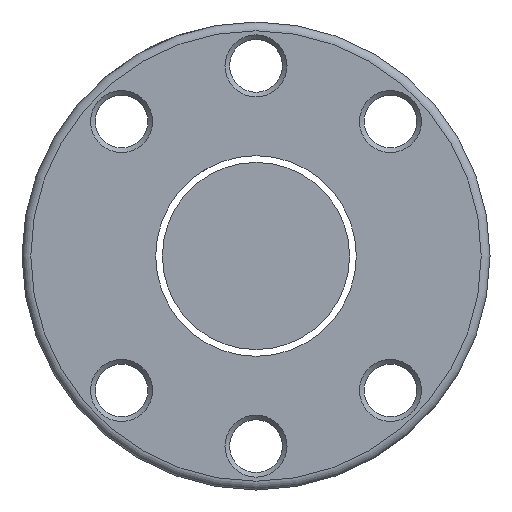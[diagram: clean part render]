
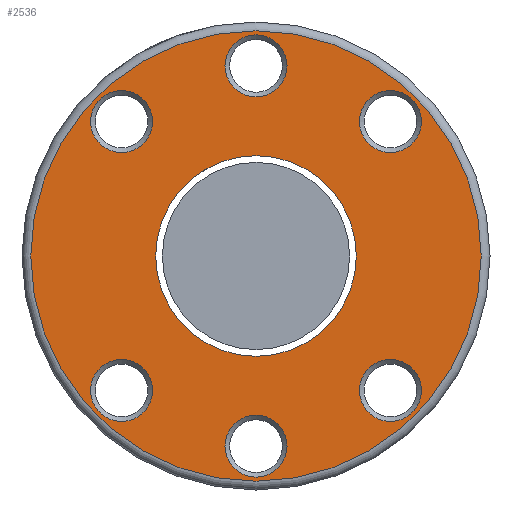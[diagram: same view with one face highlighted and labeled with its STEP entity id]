
A CAD part, left-side view. The second image highlights one B-rep face of the part: STEP entity #2536.
In plain terms, the highlighted planar face has unit normal (-1, 0, 0).
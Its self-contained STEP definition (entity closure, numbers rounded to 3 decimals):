
#10 = CARTESIAN_POINT ( 'NONE',  ( -57., 0., 0. ) ) ;
#48 = ORIENTED_EDGE ( 'NONE', *, *, #836, .T. ) ;
#67 = EDGE_CURVE ( 'NONE', #1059, #1059, #2419, .T. ) ;
#74 = CARTESIAN_POINT ( 'NONE',  ( -57., 22.981, 28.281 ) ) ;
#90 = PLANE ( 'NONE',  #589 ) ;
#108 = CARTESIAN_POINT ( 'NONE',  ( -57., 40., 0. ) ) ;
#122 = FACE_BOUND ( 'NONE', #1304, .T. ) ;
#131 = DIRECTION ( 'NONE',  ( 0., 0., 1. ) ) ;
#160 = DIRECTION ( 'NONE',  ( 0., 0., 1. ) ) ;
#193 = DIRECTION ( 'NONE',  ( 1., 0., 0. ) ) ;
#234 = CARTESIAN_POINT ( 'NONE',  ( -57., 22.981, -22.981 ) ) ;
#276 = VERTEX_POINT ( 'NONE', #2398 ) ;
#304 = DIRECTION ( 'NONE',  ( 1., 0., 0. ) ) ;
#459 = DIRECTION ( 'NONE',  ( 1., 0., 0. ) ) ;
#509 = ORIENTED_EDGE ( 'NONE', *, *, #1244, .T. ) ;
#515 = EDGE_LOOP ( 'NONE', ( #1087 ) ) ;
#545 = CARTESIAN_POINT ( 'NONE',  ( -57., 0., 38.5 ) ) ;
#546 = CIRCLE ( 'NONE', #892, 17.15 ) ;
#560 = EDGE_CURVE ( 'NONE', #1679, #1679, #1688, .T. ) ;
#589 = AXIS2_PLACEMENT_3D ( 'NONE', #108, #929, #1776 ) ;
#633 = VERTEX_POINT ( 'NONE', #1492 ) ;
#663 = CIRCLE ( 'NONE', #2550, 5.3 ) ;
#667 = AXIS2_PLACEMENT_3D ( 'NONE', #1942, #304, #1787 ) ;
#669 = CARTESIAN_POINT ( 'NONE',  ( -57., -22.981, -22.981 ) ) ;
#835 = AXIS2_PLACEMENT_3D ( 'NONE', #1292, #193, #1477 ) ;
#836 = EDGE_CURVE ( 'NONE', #633, #633, #663, .T. ) ;
#847 = CIRCLE ( 'NONE', #2602, 5.3 ) ;
#851 = DIRECTION ( 'NONE',  ( 0., 0., 1. ) ) ;
#891 = ORIENTED_EDGE ( 'NONE', *, *, #1629, .T. ) ;
#892 = AXIS2_PLACEMENT_3D ( 'NONE', #10, #2532, #1093 ) ;
#911 = ORIENTED_EDGE ( 'NONE', *, *, #2332, .T. ) ;
#918 = EDGE_LOOP ( 'NONE', ( #1941 ) ) ;
#929 = DIRECTION ( 'NONE',  ( -1., 0., 0. ) ) ;
#942 = EDGE_LOOP ( 'NONE', ( #48 ) ) ;
#1059 = VERTEX_POINT ( 'NONE', #1891 ) ;
#1087 = ORIENTED_EDGE ( 'NONE', *, *, #67, .T. ) ;
#1093 = DIRECTION ( 'NONE',  ( 0., 0., -1. ) ) ;
#1136 = FACE_BOUND ( 'NONE', #918, .T. ) ;
#1149 = DIRECTION ( 'NONE',  ( 0., 0., 1. ) ) ;
#1155 = CIRCLE ( 'NONE', #2552, 38.5 ) ;
#1206 = CIRCLE ( 'NONE', #667, 5.3 ) ;
#1244 = EDGE_CURVE ( 'NONE', #276, #276, #2256, .T. ) ;
#1292 = CARTESIAN_POINT ( 'NONE',  ( -57., 0., 32.5 ) ) ;
#1304 = EDGE_LOOP ( 'NONE', ( #509 ) ) ;
#1327 = EDGE_LOOP ( 'NONE', ( #891 ) ) ;
#1346 = VERTEX_POINT ( 'NONE', #1759 ) ;
#1393 = FACE_OUTER_BOUND ( 'NONE', #1327, .T. ) ;
#1415 = DIRECTION ( 'NONE',  ( -1., 0., 0. ) ) ;
#1424 = AXIS2_PLACEMENT_3D ( 'NONE', #234, #459, #1681 ) ;
#1430 = EDGE_CURVE ( 'NONE', #2200, #2200, #1206, .T. ) ;
#1477 = DIRECTION ( 'NONE',  ( 0., 0., 1. ) ) ;
#1492 = CARTESIAN_POINT ( 'NONE',  ( -57., -22.981, 28.281 ) ) ;
#1629 = EDGE_CURVE ( 'NONE', #2570, #2570, #1155, .T. ) ;
#1679 = VERTEX_POINT ( 'NONE', #2556 ) ;
#1681 = DIRECTION ( 'NONE',  ( 0., 0., 1. ) ) ;
#1688 = CIRCLE ( 'NONE', #2597, 5.3 ) ;
#1759 = CARTESIAN_POINT ( 'NONE',  ( -57., 0., -27.2 ) ) ;
#1776 = DIRECTION ( 'NONE',  ( 0., 0., 1. ) ) ;
#1787 = DIRECTION ( 'NONE',  ( 0., 0., 1. ) ) ;
#1805 = FACE_BOUND ( 'NONE', #2396, .T. ) ;
#1887 = DIRECTION ( 'NONE',  ( 1., 0., 0. ) ) ;
#1891 = CARTESIAN_POINT ( 'NONE',  ( -57., 0., 37.8 ) ) ;
#1941 = ORIENTED_EDGE ( 'NONE', *, *, #1430, .T. ) ;
#1942 = CARTESIAN_POINT ( 'NONE',  ( -57., 22.981, 22.981 ) ) ;
#1967 = ORIENTED_EDGE ( 'NONE', *, *, #560, .T. ) ;
#1989 = EDGE_LOOP ( 'NONE', ( #911 ) ) ;
#1994 = FACE_BOUND ( 'NONE', #2599, .T. ) ;
#2051 = DIRECTION ( 'NONE',  ( 1., 0., 0. ) ) ;
#2056 = EDGE_CURVE ( 'NONE', #2213, #2213, #546, .T. ) ;
#2200 = VERTEX_POINT ( 'NONE', #74 ) ;
#2203 = FACE_BOUND ( 'NONE', #515, .T. ) ;
#2213 = VERTEX_POINT ( 'NONE', #2383 ) ;
#2246 = CARTESIAN_POINT ( 'NONE',  ( -57., 0., -32.5 ) ) ;
#2256 = CIRCLE ( 'NONE', #1424, 5.3 ) ;
#2264 = CARTESIAN_POINT ( 'NONE',  ( -57., 0., 0. ) ) ;
#2319 = ORIENTED_EDGE ( 'NONE', *, *, #2056, .T. ) ;
#2329 = DIRECTION ( 'NONE',  ( 1., 0., 0. ) ) ;
#2332 = EDGE_CURVE ( 'NONE', #1346, #1346, #847, .T. ) ;
#2371 = FACE_BOUND ( 'NONE', #1989, .T. ) ;
#2383 = CARTESIAN_POINT ( 'NONE',  ( -57., 0., -17.15 ) ) ;
#2396 = EDGE_LOOP ( 'NONE', ( #2319 ) ) ;
#2398 = CARTESIAN_POINT ( 'NONE',  ( -57., 22.981, -17.681 ) ) ;
#2419 = CIRCLE ( 'NONE', #835, 5.3 ) ;
#2430 = FACE_BOUND ( 'NONE', #942, .T. ) ;
#2532 = DIRECTION ( 'NONE',  ( 1., 0., 0. ) ) ;
#2536 = ADVANCED_FACE ( 'NONE', ( #1393, #1136, #122, #2371, #1994, #2430, #2203, #1805 ), #90, .T. ) ;
#2550 = AXIS2_PLACEMENT_3D ( 'NONE', #2603, #2329, #1149 ) ;
#2552 = AXIS2_PLACEMENT_3D ( 'NONE', #2264, #1415, #131 ) ;
#2556 = CARTESIAN_POINT ( 'NONE',  ( -57., -22.981, -17.681 ) ) ;
#2570 = VERTEX_POINT ( 'NONE', #545 ) ;
#2597 = AXIS2_PLACEMENT_3D ( 'NONE', #669, #1887, #851 ) ;
#2599 = EDGE_LOOP ( 'NONE', ( #1967 ) ) ;
#2602 = AXIS2_PLACEMENT_3D ( 'NONE', #2246, #2051, #160 ) ;
#2603 = CARTESIAN_POINT ( 'NONE',  ( -57., -22.981, 22.981 ) ) ;
